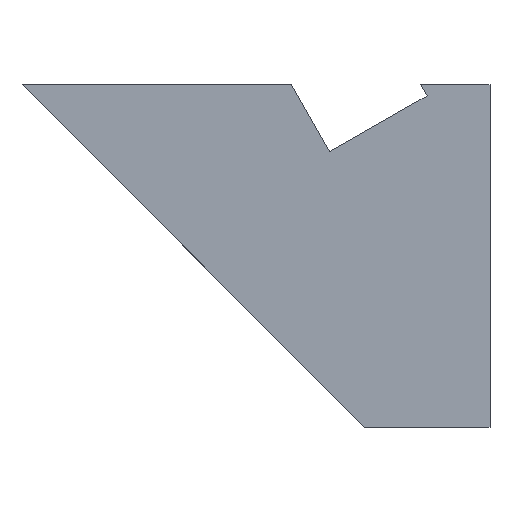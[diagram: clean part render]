
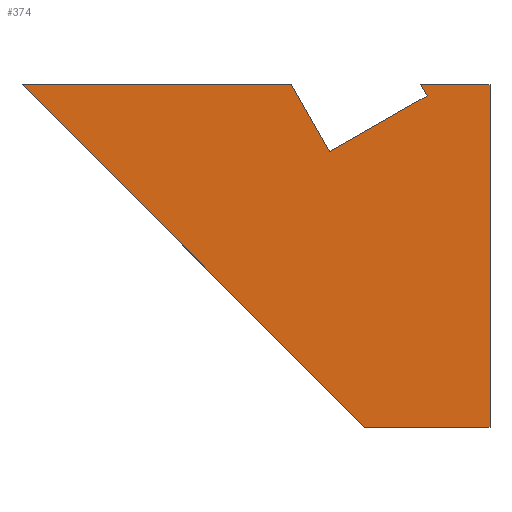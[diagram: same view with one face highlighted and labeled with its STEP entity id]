
A CAD part, top view. The second image highlights one B-rep face of the part: STEP entity #374.
In plain terms, the highlighted planar face has unit normal (0, 0, 1).
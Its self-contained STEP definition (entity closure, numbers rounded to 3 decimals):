
#32 = PLANE('',#33);
#33 = AXIS2_PLACEMENT_3D('',#34,#35,#36);
#34 = CARTESIAN_POINT('',(0.,-125.,0.));
#35 = DIRECTION('',(1.,-0.,-0.));
#36 = DIRECTION('',(0.,-1.,0.));
#57 = VERTEX_POINT('',#58);
#58 = CARTESIAN_POINT('',(0.,-58.,12.));
#72 = PLANE('',#73);
#73 = AXIS2_PLACEMENT_3D('',#74,#75,#76);
#74 = CARTESIAN_POINT('',(0.,-58.,0.));
#75 = DIRECTION('',(-0.,1.,-0.));
#76 = DIRECTION('',(0.,0.,-1.));
#84 = EDGE_CURVE('',#57,#85,#87,.T.);
#85 = VERTEX_POINT('',#86);
#86 = CARTESIAN_POINT('',(0.,125.,12.));
#87 = SURFACE_CURVE('',#88,(#92,#99),.PCURVE_S1.);
#88 = LINE('',#89,#90);
#89 = CARTESIAN_POINT('',(0.,-125.,12.));
#90 = VECTOR('',#91,1.);
#91 = DIRECTION('',(-0.,1.,-0.));
#92 = PCURVE('',#32,#93);
#93 = DEFINITIONAL_REPRESENTATION('',(#94),#98);
#94 = LINE('',#95,#96);
#95 = CARTESIAN_POINT('',(-0.,-12.));
#96 = VECTOR('',#97,1.);
#97 = DIRECTION('',(-1.,0.));
#98 = ( GEOMETRIC_REPRESENTATION_CONTEXT(2) 
PARAMETRIC_REPRESENTATION_CONTEXT() REPRESENTATION_CONTEXT('2D SPACE',''
  ) );
#99 = PCURVE('',#100,#105);
#100 = PLANE('',#101);
#101 = AXIS2_PLACEMENT_3D('',#102,#103,#104);
#102 = CARTESIAN_POINT('',(-88.388,36.612,12.));
#103 = DIRECTION('',(0.,-0.,-1.));
#104 = DIRECTION('',(-1.,0.,0.));
#105 = DEFINITIONAL_REPRESENTATION('',(#106),#110);
#106 = LINE('',#107,#108);
#107 = CARTESIAN_POINT('',(-88.388,-161.612));
#108 = VECTOR('',#109,1.);
#109 = DIRECTION('',(0.,1.));
#110 = ( GEOMETRIC_REPRESENTATION_CONTEXT(2) 
PARAMETRIC_REPRESENTATION_CONTEXT() REPRESENTATION_CONTEXT('2D SPACE',''
  ) );
#126 = PLANE('',#127);
#127 = AXIS2_PLACEMENT_3D('',#128,#129,#130);
#128 = CARTESIAN_POINT('',(0.,125.,0.));
#129 = DIRECTION('',(-0.,1.,-0.));
#130 = DIRECTION('',(1.,0.,0.));
#159 = PLANE('',#160);
#160 = AXIS2_PLACEMENT_3D('',#161,#162,#163);
#161 = CARTESIAN_POINT('',(0.,125.,0.));
#162 = DIRECTION('',(-0.,1.,-0.));
#163 = DIRECTION('',(1.,0.,0.));
#187 = PLANE('',#188);
#188 = AXIS2_PLACEMENT_3D('',#189,#190,#191);
#189 = CARTESIAN_POINT('',(-250.,125.,0.));
#190 = DIRECTION('',(-0.707,-0.707,-0.));
#191 = DIRECTION('',(-0.707,0.707,-0.));
#260 = PLANE('',#261);
#261 = AXIS2_PLACEMENT_3D('',#262,#263,#264);
#262 = CARTESIAN_POINT('',(-33.639,119.031,-24.001));
#263 = DIRECTION('',(-0.868,-0.497,-0.));
#264 = DIRECTION('',(0.497,-0.868,0.));
#288 = PLANE('',#289);
#289 = AXIS2_PLACEMENT_3D('',#290,#291,#292);
#290 = CARTESIAN_POINT('',(-33.639,119.031,-24.001));
#291 = DIRECTION('',(-0.497,0.868,-0.));
#292 = DIRECTION('',(0.,0.,-1.));
#314 = PLANE('',#315);
#315 = AXIS2_PLACEMENT_3D('',#316,#317,#318);
#316 = CARTESIAN_POINT('',(-85.698,89.196,-24.001));
#317 = DIRECTION('',(-0.868,-0.497,-0.));
#318 = DIRECTION('',(0.497,-0.868,0.));
#331 = EDGE_CURVE('',#85,#332,#334,.T.);
#332 = VERTEX_POINT('',#333);
#333 = CARTESIAN_POINT('',(-37.06,125.,12.));
#334 = SURFACE_CURVE('',#335,(#339,#346),.PCURVE_S1.);
#335 = LINE('',#336,#337);
#336 = CARTESIAN_POINT('',(0.,125.,12.));
#337 = VECTOR('',#338,1.);
#338 = DIRECTION('',(-1.,-0.,-0.));
#339 = PCURVE('',#126,#340);
#340 = DEFINITIONAL_REPRESENTATION('',(#341),#345);
#341 = LINE('',#342,#343);
#342 = CARTESIAN_POINT('',(-0.,-12.));
#343 = VECTOR('',#344,1.);
#344 = DIRECTION('',(-1.,0.));
#345 = ( GEOMETRIC_REPRESENTATION_CONTEXT(2) 
PARAMETRIC_REPRESENTATION_CONTEXT() REPRESENTATION_CONTEXT('2D SPACE',''
  ) );
#346 = PCURVE('',#100,#347);
#347 = DEFINITIONAL_REPRESENTATION('',(#348),#352);
#348 = LINE('',#349,#350);
#349 = CARTESIAN_POINT('',(-88.388,88.388));
#350 = VECTOR('',#351,1.);
#351 = DIRECTION('',(1.,-0.));
#352 = ( GEOMETRIC_REPRESENTATION_CONTEXT(2) 
PARAMETRIC_REPRESENTATION_CONTEXT() REPRESENTATION_CONTEXT('2D SPACE',''
  ) );
#374 = ADVANCED_FACE('',(#375),#100,.F.);
#375 = FACE_BOUND('',#376,.T.);
#376 = EDGE_LOOP('',(#377,#402,#425,#446,#447,#448,#471,#494));
#377 = ORIENTED_EDGE('',*,*,#378,.T.);
#378 = EDGE_CURVE('',#379,#381,#383,.T.);
#379 = VERTEX_POINT('',#380);
#380 = CARTESIAN_POINT('',(-106.217,125.,12.));
#381 = VERTEX_POINT('',#382);
#382 = CARTESIAN_POINT('',(-250.,125.,12.));
#383 = SURFACE_CURVE('',#384,(#388,#395),.PCURVE_S1.);
#384 = LINE('',#385,#386);
#385 = CARTESIAN_POINT('',(0.,125.,12.));
#386 = VECTOR('',#387,1.);
#387 = DIRECTION('',(-1.,-0.,-0.));
#388 = PCURVE('',#100,#389);
#389 = DEFINITIONAL_REPRESENTATION('',(#390),#394);
#390 = LINE('',#391,#392);
#391 = CARTESIAN_POINT('',(-88.388,88.388));
#392 = VECTOR('',#393,1.);
#393 = DIRECTION('',(1.,-0.));
#394 = ( GEOMETRIC_REPRESENTATION_CONTEXT(2) 
PARAMETRIC_REPRESENTATION_CONTEXT() REPRESENTATION_CONTEXT('2D SPACE',''
  ) );
#395 = PCURVE('',#159,#396);
#396 = DEFINITIONAL_REPRESENTATION('',(#397),#401);
#397 = LINE('',#398,#399);
#398 = CARTESIAN_POINT('',(-0.,-12.));
#399 = VECTOR('',#400,1.);
#400 = DIRECTION('',(-1.,0.));
#401 = ( GEOMETRIC_REPRESENTATION_CONTEXT(2) 
PARAMETRIC_REPRESENTATION_CONTEXT() REPRESENTATION_CONTEXT('2D SPACE',''
  ) );
#402 = ORIENTED_EDGE('',*,*,#403,.T.);
#403 = EDGE_CURVE('',#381,#404,#406,.T.);
#404 = VERTEX_POINT('',#405);
#405 = CARTESIAN_POINT('',(-67.,-58.,12.));
#406 = SURFACE_CURVE('',#407,(#411,#418),.PCURVE_S1.);
#407 = LINE('',#408,#409);
#408 = CARTESIAN_POINT('',(-250.,125.,12.));
#409 = VECTOR('',#410,1.);
#410 = DIRECTION('',(0.707,-0.707,0.));
#411 = PCURVE('',#100,#412);
#412 = DEFINITIONAL_REPRESENTATION('',(#413),#417);
#413 = LINE('',#414,#415);
#414 = CARTESIAN_POINT('',(161.612,88.388));
#415 = VECTOR('',#416,1.);
#416 = DIRECTION('',(-0.707,-0.707));
#417 = ( GEOMETRIC_REPRESENTATION_CONTEXT(2) 
PARAMETRIC_REPRESENTATION_CONTEXT() REPRESENTATION_CONTEXT('2D SPACE',''
  ) );
#418 = PCURVE('',#187,#419);
#419 = DEFINITIONAL_REPRESENTATION('',(#420),#424);
#420 = LINE('',#421,#422);
#421 = CARTESIAN_POINT('',(-0.,-12.));
#422 = VECTOR('',#423,1.);
#423 = DIRECTION('',(-1.,0.));
#424 = ( GEOMETRIC_REPRESENTATION_CONTEXT(2) 
PARAMETRIC_REPRESENTATION_CONTEXT() REPRESENTATION_CONTEXT('2D SPACE',''
  ) );
#425 = ORIENTED_EDGE('',*,*,#426,.F.);
#426 = EDGE_CURVE('',#57,#404,#427,.T.);
#427 = SURFACE_CURVE('',#428,(#432,#439),.PCURVE_S1.);
#428 = LINE('',#429,#430);
#429 = CARTESIAN_POINT('',(-44.194,-58.,12.));
#430 = VECTOR('',#431,1.);
#431 = DIRECTION('',(-1.,-0.,-0.));
#432 = PCURVE('',#100,#433);
#433 = DEFINITIONAL_REPRESENTATION('',(#434),#438);
#434 = LINE('',#435,#436);
#435 = CARTESIAN_POINT('',(-44.194,-94.612));
#436 = VECTOR('',#437,1.);
#437 = DIRECTION('',(1.,-0.));
#438 = ( GEOMETRIC_REPRESENTATION_CONTEXT(2) 
PARAMETRIC_REPRESENTATION_CONTEXT() REPRESENTATION_CONTEXT('2D SPACE',''
  ) );
#439 = PCURVE('',#72,#440);
#440 = DEFINITIONAL_REPRESENTATION('',(#441),#445);
#441 = LINE('',#442,#443);
#442 = CARTESIAN_POINT('',(-12.,44.194));
#443 = VECTOR('',#444,1.);
#444 = DIRECTION('',(-0.,1.));
#445 = ( GEOMETRIC_REPRESENTATION_CONTEXT(2) 
PARAMETRIC_REPRESENTATION_CONTEXT() REPRESENTATION_CONTEXT('2D SPACE',''
  ) );
#446 = ORIENTED_EDGE('',*,*,#84,.T.);
#447 = ORIENTED_EDGE('',*,*,#331,.T.);
#448 = ORIENTED_EDGE('',*,*,#449,.T.);
#449 = EDGE_CURVE('',#332,#450,#452,.T.);
#450 = VERTEX_POINT('',#451);
#451 = CARTESIAN_POINT('',(-33.639,119.031,12.));
#452 = SURFACE_CURVE('',#453,(#457,#464),.PCURVE_S1.);
#453 = LINE('',#454,#455);
#454 = CARTESIAN_POINT('',(-22.629,99.82,12.));
#455 = VECTOR('',#456,1.);
#456 = DIRECTION('',(0.497,-0.868,0.));
#457 = PCURVE('',#100,#458);
#458 = DEFINITIONAL_REPRESENTATION('',(#459),#463);
#459 = LINE('',#460,#461);
#460 = CARTESIAN_POINT('',(-65.76,63.208));
#461 = VECTOR('',#462,1.);
#462 = DIRECTION('',(-0.497,-0.868));
#463 = ( GEOMETRIC_REPRESENTATION_CONTEXT(2) 
PARAMETRIC_REPRESENTATION_CONTEXT() REPRESENTATION_CONTEXT('2D SPACE',''
  ) );
#464 = PCURVE('',#260,#465);
#465 = DEFINITIONAL_REPRESENTATION('',(#466),#470);
#466 = LINE('',#467,#468);
#467 = CARTESIAN_POINT('',(22.143,36.001));
#468 = VECTOR('',#469,1.);
#469 = DIRECTION('',(1.,-0.));
#470 = ( GEOMETRIC_REPRESENTATION_CONTEXT(2) 
PARAMETRIC_REPRESENTATION_CONTEXT() REPRESENTATION_CONTEXT('2D SPACE',''
  ) );
#471 = ORIENTED_EDGE('',*,*,#472,.T.);
#472 = EDGE_CURVE('',#450,#473,#475,.T.);
#473 = VERTEX_POINT('',#474);
#474 = CARTESIAN_POINT('',(-85.698,89.196,12.));
#475 = SURFACE_CURVE('',#476,(#480,#487),.PCURVE_S1.);
#476 = LINE('',#477,#478);
#477 = CARTESIAN_POINT('',(-72.024,97.033,12.));
#478 = VECTOR('',#479,1.);
#479 = DIRECTION('',(-0.868,-0.497,-0.));
#480 = PCURVE('',#100,#481);
#481 = DEFINITIONAL_REPRESENTATION('',(#482),#486);
#482 = LINE('',#483,#484);
#483 = CARTESIAN_POINT('',(-16.365,60.421));
#484 = VECTOR('',#485,1.);
#485 = DIRECTION('',(0.868,-0.497));
#486 = ( GEOMETRIC_REPRESENTATION_CONTEXT(2) 
PARAMETRIC_REPRESENTATION_CONTEXT() REPRESENTATION_CONTEXT('2D SPACE',''
  ) );
#487 = PCURVE('',#288,#488);
#488 = DEFINITIONAL_REPRESENTATION('',(#489),#493);
#489 = LINE('',#490,#491);
#490 = CARTESIAN_POINT('',(-36.001,44.242));
#491 = VECTOR('',#492,1.);
#492 = DIRECTION('',(-0.,1.));
#493 = ( GEOMETRIC_REPRESENTATION_CONTEXT(2) 
PARAMETRIC_REPRESENTATION_CONTEXT() REPRESENTATION_CONTEXT('2D SPACE',''
  ) );
#494 = ORIENTED_EDGE('',*,*,#495,.F.);
#495 = EDGE_CURVE('',#379,#473,#496,.T.);
#496 = SURFACE_CURVE('',#497,(#501,#508),.PCURVE_S1.);
#497 = LINE('',#498,#499);
#498 = CARTESIAN_POINT('',(-74.687,69.985,12.));
#499 = VECTOR('',#500,1.);
#500 = DIRECTION('',(0.497,-0.868,0.));
#501 = PCURVE('',#100,#502);
#502 = DEFINITIONAL_REPRESENTATION('',(#503),#507);
#503 = LINE('',#504,#505);
#504 = CARTESIAN_POINT('',(-13.701,33.373));
#505 = VECTOR('',#506,1.);
#506 = DIRECTION('',(-0.497,-0.868));
#507 = ( GEOMETRIC_REPRESENTATION_CONTEXT(2) 
PARAMETRIC_REPRESENTATION_CONTEXT() REPRESENTATION_CONTEXT('2D SPACE',''
  ) );
#508 = PCURVE('',#314,#509);
#509 = DEFINITIONAL_REPRESENTATION('',(#510),#514);
#510 = LINE('',#511,#512);
#511 = CARTESIAN_POINT('',(22.143,36.001));
#512 = VECTOR('',#513,1.);
#513 = DIRECTION('',(1.,-0.));
#514 = ( GEOMETRIC_REPRESENTATION_CONTEXT(2) 
PARAMETRIC_REPRESENTATION_CONTEXT() REPRESENTATION_CONTEXT('2D SPACE',''
  ) );
